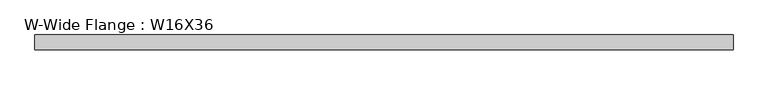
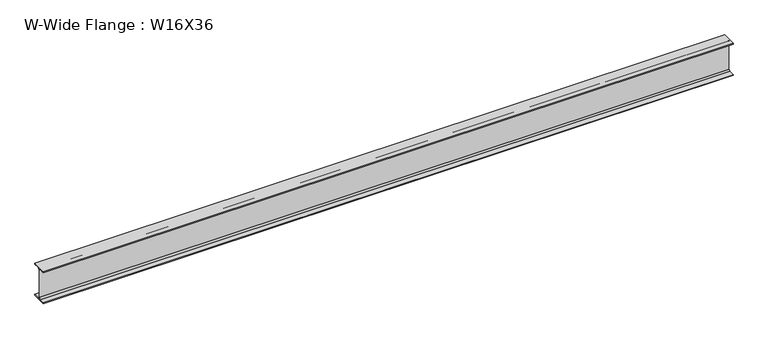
"""IFC4 building model written with IfcOpenShell, lengths in millimetres: beam geometry, W-Wide Flange : W16X36."""

from ifc_helpers import new_model, si_unit, point, frame, frame_2d, origin, place, context, project, spatial, polyline, circle_curve, trimmed, segment, composite_curve, outline, extrude, source, transform, mapped, element, save


def w_wide_flange_w16x36_33568e6e(model_context):
    return source(origin(), model_context, "Body", "SweptSolid", [
        extrude(outline(composite_curve([segment(polyline([(88.773, -191.008), (88.773, -201.93), (-88.773, -201.93), (-88.773, -191.008), (-21.3995, -191.008)]), True, "CONTINUOUS"), segment(trimmed(circle_curve(frame_2d((-21.3995, -173.355)), 17.653), [point((-21.3995, -191.008))], [point((-3.7465, -173.355))], True, "CARTESIAN"), True, "CONTINUOUS"), segment(polyline([(-3.7465, -173.355), (-3.7465, 173.355)]), True, "CONTINUOUS"), segment(trimmed(circle_curve(frame_2d((-21.3995, 173.355)), 17.653), [point((-3.7465, 173.355))], [point((-21.3995, 191.008))], True, "CARTESIAN"), True, "CONTINUOUS"), segment(polyline([(-21.3995, 191.008), (-88.773, 191.008), (-88.773, 201.93), (88.773, 201.93), (88.773, 191.008), (21.3995, 191.008)]), True, "CONTINUOUS"), segment(trimmed(circle_curve(frame_2d((21.3995, 173.355)), 17.653), [point((21.3995, 191.008))], [point((3.7465, 173.355))], True, "CARTESIAN"), True, "CONTINUOUS"), segment(polyline([(3.7465, 173.355), (3.7465, -173.355)]), True, "CONTINUOUS"), segment(trimmed(circle_curve(frame_2d((21.3995, -173.355)), 17.653), [point((3.7465, -173.355))], [point((21.3995, -191.008))], True, "CARTESIAN"), True, "CONTINUOUS"), segment(polyline([(21.3995, -191.008), (88.773, -191.008)]), True, "CONTINUOUS")], self_intersect=False)), frame((-4343.4, 0.0, 0.0), z_axis=(1.0, 0.0, 0.0), x_axis=(0.0, 1.0, 0.0)), (0.0, 0.0, 1.0), 8229.6),
    ])


if __name__ == "__main__":
    model = new_model("IFC4")
    model_context = context("Model", 3, world=origin())
    ifc_project = project(units=[si_unit("LENGTHUNIT", "METRE", prefix="MILLI")], contexts=[model_context])
    site = spatial("IfcSite", under=ifc_project)
    building = spatial("IfcBuilding", under=site)
    placement = place(None, origin())
    w_wide_flange_w16x36_shape = w_wide_flange_w16x36_33568e6e(model_context)
    element("IfcBeam", 1, ObjectType="W-Wide Flange : W16X36", at=placement, inside=building, context=model_context, shape_type="MappedRepresentation", body=[
        mapped(w_wide_flange_w16x36_shape, transform((0.0, 0.0, 0.0), x_axis=(1.0, 0.0, 0.0), y_axis=(0.0, 1.0, 0.0), z_axis=(0.0, 0.0, 1.0))),
    ])
    save(model, "model.ifc")
